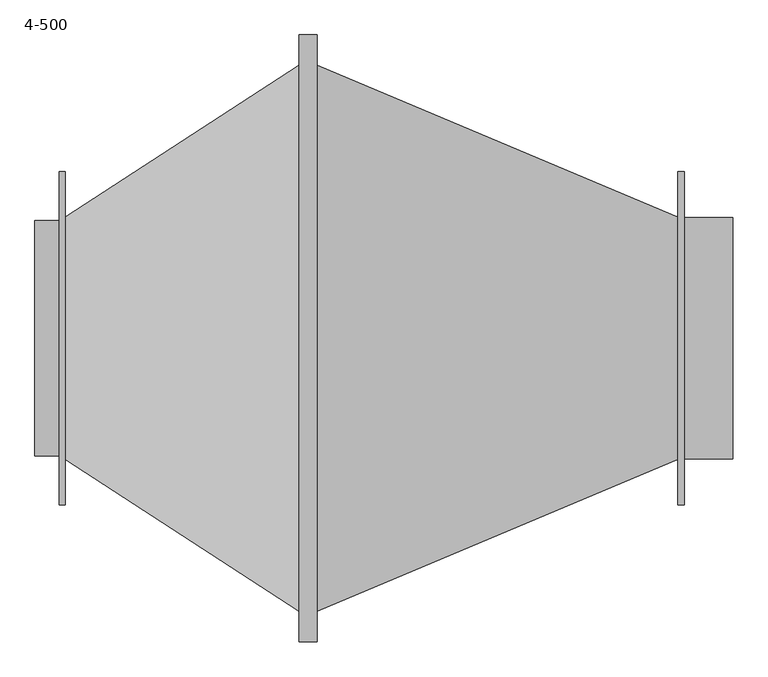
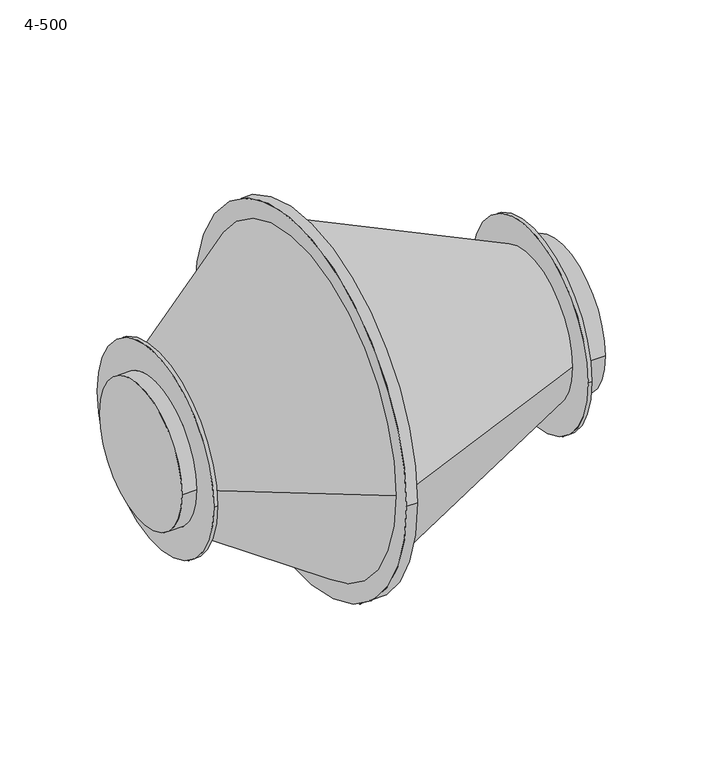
"""IFC4 building model written with IfcOpenShell, lengths in millimetres: unitary equipment geometry, VE-Wentylator-ParaForma-Harmann-VITT_L-Wywiewny : 4-500."""

from ifc_helpers import new_model, si_unit, point, frame, origin, origin_2d, place, context, project, spatial, polyline, circle_curve, trimmed, segment, composite_curve, outline, extrude, source, transform, mapped, element, save
from ifc_brep_helpers import plane_surface, cylinder_surface, revolved_surface, advanced_brep


def unitary_equipment_4_500_b6eac10b(model_context):
    return source(origin(), model_context, "Body", "SolidModel", [
        advanced_brep(
        [(-30.0, -450.0, 0.0), (-30.0, 450.0, 0.0), (-465.0, -194.0, 0.0), (-465.0, 194.0, 0.0), (-425.0, -194.0, 0.0), (-425.0, 194.0, 0.0), (-415.0, -200.0, 0.0), (-415.0, 200.0, 0.0), (-425.0, -275.0, 0.0), (-425.0, 275.0, 0.0), (-415.0, -275.0, 0.0), (-415.0, 275.0, 0.0)],
        [
            (0, 1, circle_curve(frame((-30.0, 0.0, 0.0), z_axis=(1.0, 0.0, 0.0), x_axis=(0.0, -0.9999999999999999, 0.0)), 450.0)),
            (1, 0, circle_curve(frame((-30.0, 0.0, 0.0), z_axis=(1.0, 0.0, 0.0), x_axis=(0.0, 0.9999999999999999, 0.0)), 450.0)),
            (2, 3, circle_curve(frame((-465.0, 0.0, 0.0), z_axis=(-1.0, 0.0, 0.0), x_axis=(0.0, 0.9999999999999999, 0.0)), 194.0)),
            (3, 2, circle_curve(frame((-465.0, 0.0, 0.0), z_axis=(-1.0, 0.0, 0.0), x_axis=(0.0, 0.9999999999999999, 0.0)), 194.0)),
            (2, 4),
            (4, 5, circle_curve(frame((-425.0, 0.0, 0.0), z_axis=(-1.0, 0.0, 0.0), x_axis=(0.0, 0.9999999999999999, 0.0)), 194.0)),
            (5, 3),
            (5, 4, circle_curve(frame((-425.0, 0.0, 0.0), z_axis=(-1.0, 0.0, 0.0), x_axis=(0.0, 0.9999999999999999, 0.0)), 194.0)),
            (0, 6),
            (6, 7, circle_curve(frame((-415.0, 0.0, 0.0), z_axis=(1.0, 0.0, 0.0), x_axis=(0.0, -0.9999999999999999, 0.0)), 200.0)),
            (7, 1),
            (7, 6, circle_curve(frame((-415.0, 0.0, 0.0), z_axis=(1.0, 0.0, 0.0), x_axis=(0.0, 0.9999999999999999, 0.0)), 200.0)),
            (8, 9, circle_curve(frame((-425.0, 0.0, 0.0), z_axis=(-1.0, 0.0, 0.0), x_axis=(0.0, 0.9999999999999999, 0.0)), 275.0)),
            (9, 8, circle_curve(frame((-425.0, 0.0, 0.0), z_axis=(-1.0, 0.0, 0.0), x_axis=(0.0, 0.9999999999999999, 0.0)), 275.0)),
            (10, 11, circle_curve(frame((-415.0, 0.0, 0.0), z_axis=(1.0, 0.0, 0.0), x_axis=(0.0, 0.9999999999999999, 0.0)), 275.0)),
            (11, 10, circle_curve(frame((-415.0, 0.0, 0.0), z_axis=(1.0, 0.0, 0.0), x_axis=(0.0, 0.9999999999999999, 0.0)), 275.0)),
            (8, 10),
            (11, 9),
        ],
        [
            plane_surface(frame((-30.0, 0.0, 0.0), z_axis=(1.0, 0.0, 0.0), x_axis=(0.0, 0.0, -1.0))),
            plane_surface(frame((-465.0, 0.0, 0.0), z_axis=(-1.0, 0.0, 0.0), x_axis=(0.0, 0.0, 1.0))),
            cylinder_surface(frame((-465.0, 0.0, 0.0), z_axis=(-0.9999999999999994, 0.0, 0.0), x_axis=(0.0, 0.9999999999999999, 0.0)), 194.0),
            revolved_surface(polyline([(-415.0, 200.0, 0.0), (-30.0, 450.0, 0.0)]), (-723.0, 0.0, 0.0), (0.9999999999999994, 0.0, 0.0)),
            revolved_surface(polyline([(-415.0, -200.0, 0.0), (-30.0, -450.0, 0.0)]), (-723.0, 0.0, 0.0), (0.9999999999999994, 0.0, 0.0)),
            plane_surface(frame((-425.0, 0.0, 0.0), z_axis=(-1.0, 0.0, 0.0), x_axis=(0.0, 0.0, 1.0))),
            plane_surface(frame((-415.0, 0.0, 0.0), z_axis=(1.0, 0.0, 0.0), x_axis=(0.0, 0.0, 1.0))),
            cylinder_surface(frame((-425.0, 0.0, 0.0), z_axis=(-0.9999999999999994, 0.0, 0.0), x_axis=(0.0, 0.9999999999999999, 0.0)), 275.0),
        ],
        [
            (0, [[1, 2]]),
            (1, [[3, 4]]),
            (2, [[-3, 5, 6, 7]]),
            (2, [[-4, -7, 8, -5]]),
            (3, [[-1, 9, 10, 11]]),
            (4, [[-2, -11, 12, -9]]),
            (5, [[13, 14], [-6, -8]]),
            (6, [[15, 16], [-10, -12]]),
            (7, [[-13, 17, -16, 18]]),
            (7, [[-14, -18, -15, -17]]),
        ],
    ),
        advanced_brep(
        [(0.0, -450.0, 0.0), (0.0, 450.0, 0.0), (595.0, 200.0, 0.0), (595.0, -200.0, 0.0), (605.0, -275.0, 0.0), (605.0, 275.0, 0.0), (605.0, -199.0, 0.0), (605.0, 199.0, 0.0), (595.0, 275.0, 0.0), (595.0, -275.0, 0.0), (685.0, -199.0, 0.0), (685.0, 199.0, 0.0)],
        [
            (0, 1, circle_curve(frame((0.0, 0.0, 0.0), z_axis=(-1.0, 0.0, 0.0), x_axis=(0.0, 0.9999999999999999, 0.0)), 450.0)),
            (1, 0, circle_curve(frame((0.0, 0.0, 0.0), z_axis=(-1.0, 0.0, 0.0), x_axis=(0.0, -0.9999999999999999, 0.0)), 450.0)),
            (1, 2),
            (2, 3, circle_curve(frame((595.0, 0.0, 0.0), z_axis=(-1.0, 0.0, 0.0), x_axis=(0.0, -0.9999999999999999, 0.0)), 200.0)),
            (3, 0),
            (3, 2, circle_curve(frame((595.0, 0.0, 0.0), z_axis=(-1.0, 0.0, 0.0), x_axis=(0.0, 0.9999999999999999, 0.0)), 200.0)),
            (4, 5, circle_curve(frame((605.0, 0.0, 0.0), z_axis=(1.0, 0.0, 0.0), x_axis=(0.0, 0.9999999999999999, 0.0)), 275.0)),
            (5, 4, circle_curve(frame((605.0, 0.0, 0.0), z_axis=(1.0, 0.0, 0.0), x_axis=(0.0, 0.9999999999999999, 0.0)), 275.0)),
            (6, 7, circle_curve(frame((605.0, 0.0, 0.0), z_axis=(-1.0, 0.0, 0.0), x_axis=(0.0, 0.9999999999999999, 0.0)), 199.0)),
            (7, 6, circle_curve(frame((605.0, 0.0, 0.0), z_axis=(-1.0, 0.0, 0.0), x_axis=(0.0, 0.9999999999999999, 0.0)), 199.0)),
            (8, 9, circle_curve(frame((595.0, 0.0, 0.0), z_axis=(1.0, 0.0, 0.0), x_axis=(0.0, 0.9999999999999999, 0.0)), 275.0)),
            (9, 4),
            (5, 8),
            (9, 8, circle_curve(frame((595.0, 0.0, 0.0), z_axis=(1.0, 0.0, 0.0), x_axis=(0.0, 0.9999999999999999, 0.0)), 275.0)),
            (10, 11, circle_curve(frame((685.0, 0.0, 0.0), z_axis=(1.0, 0.0, 0.0), x_axis=(0.0, 0.9999999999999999, 0.0)), 199.0)),
            (11, 10, circle_curve(frame((685.0, 0.0, 0.0), z_axis=(1.0, 0.0, 0.0), x_axis=(0.0, 0.9999999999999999, 0.0)), 199.0)),
            (11, 7),
            (6, 10),
        ],
        [
            plane_surface(frame((0.0, 0.0, 0.0), z_axis=(-1.0, 0.0, 0.0), x_axis=(0.0, 0.0, -1.0))),
            revolved_surface(polyline([(595.0, -200.0, 0.0), (0.0, -450.0, 0.0)]), (1071.0, 0.0, 0.0), (-0.9999999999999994, 0.0, 0.0)),
            revolved_surface(polyline([(595.0, 200.0, 0.0), (0.0, 450.0, 0.0)]), (1071.0, 0.0, 0.0), (-0.9999999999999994, 0.0, 0.0)),
            plane_surface(frame((605.0, 0.0, 0.0), z_axis=(1.0, 0.0, 0.0), x_axis=(0.0, 0.0, 1.0))),
            cylinder_surface(frame((595.0, 0.0, 0.0), z_axis=(-0.9999999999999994, 0.0, 0.0), x_axis=(0.0, 0.9999999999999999, 0.0)), 275.0),
            plane_surface(frame((685.0, 0.0, 0.0), z_axis=(1.0, 0.0, 0.0), x_axis=(0.0, 0.0, 1.0))),
            cylinder_surface(frame((605.0, 0.0, 0.0), z_axis=(-0.9999999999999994, 0.0, 0.0), x_axis=(0.0, 0.9999999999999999, 0.0)), 199.0),
            plane_surface(frame((595.0, 0.0, 0.0), z_axis=(-1.0, 0.0, 0.0), x_axis=(0.0, 0.0, 1.0))),
        ],
        [
            (0, [[1, 2]]),
            (1, [[-2, 3, 4, 5]]),
            (2, [[-1, -5, 6, -3]]),
            (3, [[7, 8], [9, 10]]),
            (4, [[11, 12, -8, 13]]),
            (4, [[14, -13, -7, -12]]),
            (5, [[15, 16]]),
            (6, [[-16, 17, -9, 18]]),
            (6, [[-15, -18, -10, -17]]),
            (7, [[-11, -14], [-4, -6]]),
        ],
    ),
        extrude(outline(composite_curve([segment(trimmed(circle_curve(origin_2d(), 500.0), [point((-500.0, 0.0))], [point((500.0, 0.0))], False, "CARTESIAN"), True, "CONTINUOUS"), segment(trimmed(circle_curve(origin_2d(), 500.0), [point((500.0, 0.0))], [point((-500.0, 0.0))], False, "CARTESIAN"), True, "CONTINUOUS")], self_intersect=False)), frame((-30.0, 0.0, 0.0), z_axis=(1.0, 0.0, 0.0), x_axis=(0.0, 1.0, 0.0)), (0.0, 0.0, 1.0), 30.0),
    ])


if __name__ == "__main__":
    model = new_model("IFC4")
    model_context = context("Model", 3, world=origin())
    ifc_project = project(units=[si_unit("LENGTHUNIT", "METRE", prefix="MILLI")], contexts=[model_context])
    site = spatial("IfcSite", under=ifc_project)
    building = spatial("IfcBuilding", under=site)
    placement = place(None, origin())
    unitary_equipment_4_500_shape = unitary_equipment_4_500_b6eac10b(model_context)
    element("IfcUnitaryEquipment", 1, ObjectType="VE-Wentylator-ParaForma-Harmann-VITT_L-Wywiewny : 4-500", at=placement, inside=building, context=model_context, shape_type="MappedRepresentation", body=[
        mapped(unitary_equipment_4_500_shape, transform((0.0, 0.0, 0.0), x_axis=(1.0, 0.0, 0.0), y_axis=(0.0, 1.0, 0.0), z_axis=(0.0, 0.0, 1.0))),
    ])
    save(model, "model.ifc")
